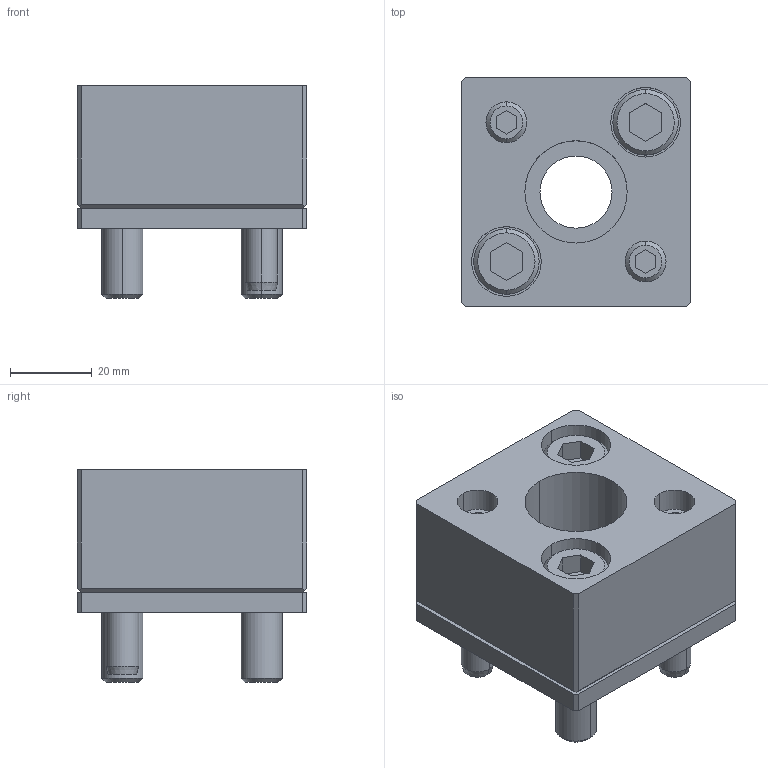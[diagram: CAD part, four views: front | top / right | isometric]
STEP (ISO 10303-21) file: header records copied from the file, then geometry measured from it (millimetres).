
FILE_DESCRIPTION(/* description */ (''),/* implementation_level */ '2;1');
FILE_NAME(/* name */ '3d_sr-ad25_02895_r00.stp',/* time_stamp */ '2011-01-10T14:10:01+09:00',/* author */ ('MISUMI'),/* organization */ (''),/* preprocessor_version */ 'ST-DEVELOPER v11',/* originating_system */ 'UGS - NX 5.0',/* authorisation */ '');
FILE_SCHEMA (('CONFIG_CONTROL_DESIGN'));
Length unit declared in the file: millimetre
Products named in the file (1): 3d_sr-ad25_02895_r00
Bounding box: 56 x 56 x 52 mm (x, y, z)
Volume: 95185.3 mm3; surface area: 31566.6 mm2
Topology: 8 solids, 8 shells, 155 faces, 346 edges, 222 vertices
Faces by surface type: plane 77, cylinder 52, cone 26
Entity records: 4440 total; most frequent: DIRECTION 784, CARTESIAN_POINT 766, ORIENTED_EDGE 692, EDGE_CURVE 346, AXIS2_PLACEMENT_3D 286, VERTEX_POINT 222, LINE 212, VECTOR 212
